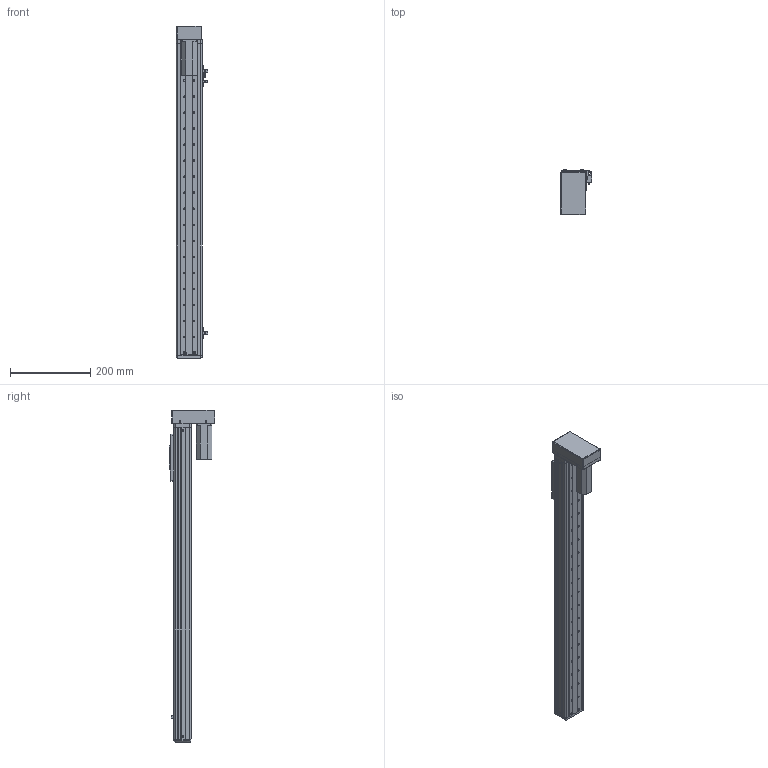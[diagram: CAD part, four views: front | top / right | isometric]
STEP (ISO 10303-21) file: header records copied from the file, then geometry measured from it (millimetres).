
FILE_DESCRIPTION (( 'STEP AP203' ), '1' );
FILE_NAME ('RY60F-L1210-300-BK.SLDASM_600.step', '2021-03-02T06:47:12', ( '盈信电脑' ), ( '东莞市道滘镇水果街19号' ), 'SwSTEP 2.0', 'SolidWorks 2012', '' );
FILE_SCHEMA (( 'CONFIG_CONTROL_DESIGN' ));
Length unit declared in the file: millimetre
Products named in the file (17): 俋噤12酗38滅袉蝶; 侂狟100W; 俋噤12酗29滅袉蝶; RY50F-300-MR15W蛌殏絳寢-BK_600; RY60F-300-蛌殏滅鳥詩え-BK_600; RY60F-L1210-300-BK.SLDASM_600; RY60F-狟殏萇儂欶(100W); RY60F-狟殏萇儂假蚾啣(100W PCD45 M3); RY60F-转折电机端丝杆安装座; RY60F-L1210-300-BK蛌殏俋褲_600; 覜茼ん672; RY60F-祥凄詩滅鳥裔; RY50-60詩湍揤啣; RY60F-滅鳥詩え盓殤; RY60F-嫖萇羲壽結え; RY60F-浮动端丝杆支撑座; RY60F-臏賑輸
Assembly tree (20 placements, depth 2):
  RY60F-L1210-300-BK.SLDASM_600
    RY60F-臏賑輸
    RY60F-浮动端丝杆支撑座
    RY60F-滅鳥詩え盓殤
    RY60F-嫖萇羲壽結え
    RY50-60詩湍揤啣  x2
    RY60F-祥凄詩滅鳥裔
    RY60F-L1210-300-BK蛌殏俋褲_600  x2
    覜茼ん672  x3
    RY60F-300-蛌殏滅鳥詩え-BK_600
    RY50F-300-MR15W蛌殏絳寢-BK_600
    俋噤12酗29滅袉蝶
    俋噤12酗38滅袉蝶
    侂狟100W
    RY60F-转折电机端丝杆安装座
    RY60F-狟殏萇儂假蚾啣(100W PCD45 M3)
    RY60F-狟殏萇儂欶(100W)
Bounding box: 78.7 x 114 x 828 mm (x, y, z)
Volume: 781913.3 mm3; surface area: 551061.9 mm2
Topology: 20 solids, 21 shells, 1077 faces, 2938 edges, 1863 vertices
Faces by surface type: cylinder 502, plane 463, cone 94, bspline 18
Entity records: 33006 total; most frequent: CARTESIAN_POINT 6362, DIRECTION 5265, ORIENTED_EDGE 5040, EDGE_CURVE 2520, AXIS2_PLACEMENT_3D 1886, VERTEX_POINT 1639, VECTOR 1493, LINE 1493
